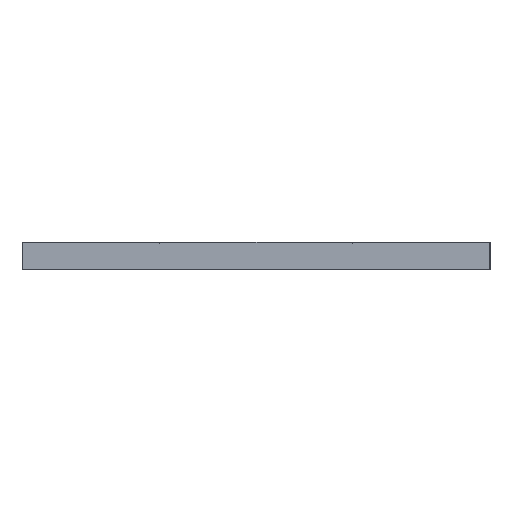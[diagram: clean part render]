
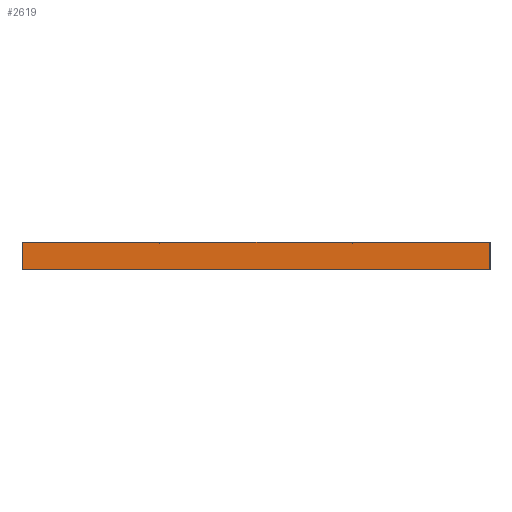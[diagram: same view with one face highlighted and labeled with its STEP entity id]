
A CAD part, left-side view. The second image highlights one B-rep face of the part: STEP entity #2619.
In plain terms, the highlighted planar face has unit normal (-1, 0, 0).
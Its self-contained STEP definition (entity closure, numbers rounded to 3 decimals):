
#111 = CARTESIAN_POINT ( 'NONE',  ( -17., 17., 2. ) ) ;
#118 = DIRECTION ( 'NONE',  ( 0., -1., 0. ) ) ;
#138 = CARTESIAN_POINT ( 'NONE',  ( -17., 17., 2. ) ) ;
#147 = DIRECTION ( 'NONE',  ( 0., -1., 0. ) ) ;
#785 = CARTESIAN_POINT ( 'NONE',  ( -17., -17., 2. ) ) ;
#1588 = CARTESIAN_POINT ( 'NONE',  ( -17., 17., 2. ) ) ;
#1602 = PLANE ( 'NONE',  #1786 ) ;
#1603 = DIRECTION ( 'NONE',  ( 1., 0., 0. ) ) ;
#1604 = DIRECTION ( 'NONE',  ( 0., 1., 0. ) ) ;
#1786 = AXIS2_PLACEMENT_3D ( 'NONE', #1588, #1603, #1604 ) ;
#1790 = LINE ( 'NONE', #3443, #1822 ) ;
#1792 = FACE_OUTER_BOUND ( 'NONE', #2552, .T. ) ;
#1822 = VECTOR ( 'NONE', #3432, 1000. ) ;
#1854 = VECTOR ( 'NONE', #3715, 1000. ) ;
#1874 = VECTOR ( 'NONE', #3729, 1000. ) ;
#1881 = LINE ( 'NONE', #3761, #1874 ) ;
#1899 = LINE ( 'NONE', #3740, #1854 ) ;
#1916 = LINE ( 'NONE', #3994, #1935 ) ;
#1918 = LINE ( 'NONE', #138, #1970 ) ;
#1928 = VECTOR ( 'NONE', #118, 1000. ) ;
#1935 = VECTOR ( 'NONE', #4018, 1000. ) ;
#1955 = LINE ( 'NONE', #111, #1928 ) ;
#1970 = VECTOR ( 'NONE', #147, 1000. ) ;
#2093 = VERTEX_POINT ( 'NONE', #785 ) ;
#2300 = ORIENTED_EDGE ( 'NONE', *, *, #3006, .T. ) ;
#2319 = ORIENTED_EDGE ( 'NONE', *, *, #3077, .F. ) ;
#2515 = ORIENTED_EDGE ( 'NONE', *, *, #2968, .F. ) ;
#2520 = ORIENTED_EDGE ( 'NONE', *, *, #3046, .F. ) ;
#2531 = ORIENTED_EDGE ( 'NONE', *, *, #3004, .T. ) ;
#2535 = ORIENTED_EDGE ( 'NONE', *, *, #3076, .F. ) ;
#2552 = EDGE_LOOP ( 'NONE', ( #2300, #2520, #2515, #2319, #2535, #2531 ) ) ;
#2619 = ADVANCED_FACE ( 'NONE', ( #1792 ), #1602, .F. ) ;
#2791 = VERTEX_POINT ( 'NONE', #3294 ) ;
#2815 = VERTEX_POINT ( 'NONE', #3267 ) ;
#2839 = VERTEX_POINT ( 'NONE', #3330 ) ;
#2867 = VERTEX_POINT ( 'NONE', #3365 ) ;
#2884 = VERTEX_POINT ( 'NONE', #3370 ) ;
#2968 = EDGE_CURVE ( 'NONE', #2815, #2093, #1790, .T. ) ;
#3004 = EDGE_CURVE ( 'NONE', #2839, #2884, #1881, .T. ) ;
#3006 = EDGE_CURVE ( 'NONE', #2884, #2867, #1899, .T. ) ;
#3046 = EDGE_CURVE ( 'NONE', #2093, #2867, #1916, .T. ) ;
#3076 = EDGE_CURVE ( 'NONE', #2839, #2791, #1918, .T. ) ;
#3077 = EDGE_CURVE ( 'NONE', #2791, #2815, #1955, .T. ) ;
#3267 = CARTESIAN_POINT ( 'NONE',  ( -17., -7., 2. ) ) ;
#3294 = CARTESIAN_POINT ( 'NONE',  ( -17., 7., 2. ) ) ;
#3330 = CARTESIAN_POINT ( 'NONE',  ( -17., 17., 2. ) ) ;
#3365 = CARTESIAN_POINT ( 'NONE',  ( -17., -17., 0. ) ) ;
#3370 = CARTESIAN_POINT ( 'NONE',  ( -17., 17., 0. ) ) ;
#3432 = DIRECTION ( 'NONE',  ( 0., -1., 0. ) ) ;
#3443 = CARTESIAN_POINT ( 'NONE',  ( -17., 17., 2. ) ) ;
#3715 = DIRECTION ( 'NONE',  ( 0., -1., 0. ) ) ;
#3729 = DIRECTION ( 'NONE',  ( 0., 0., -1. ) ) ;
#3740 = CARTESIAN_POINT ( 'NONE',  ( -17., 17., 0. ) ) ;
#3761 = CARTESIAN_POINT ( 'NONE',  ( -17., 17., 2. ) ) ;
#3994 = CARTESIAN_POINT ( 'NONE',  ( -17., -17., 2. ) ) ;
#4018 = DIRECTION ( 'NONE',  ( 0., 0., -1. ) ) ;
